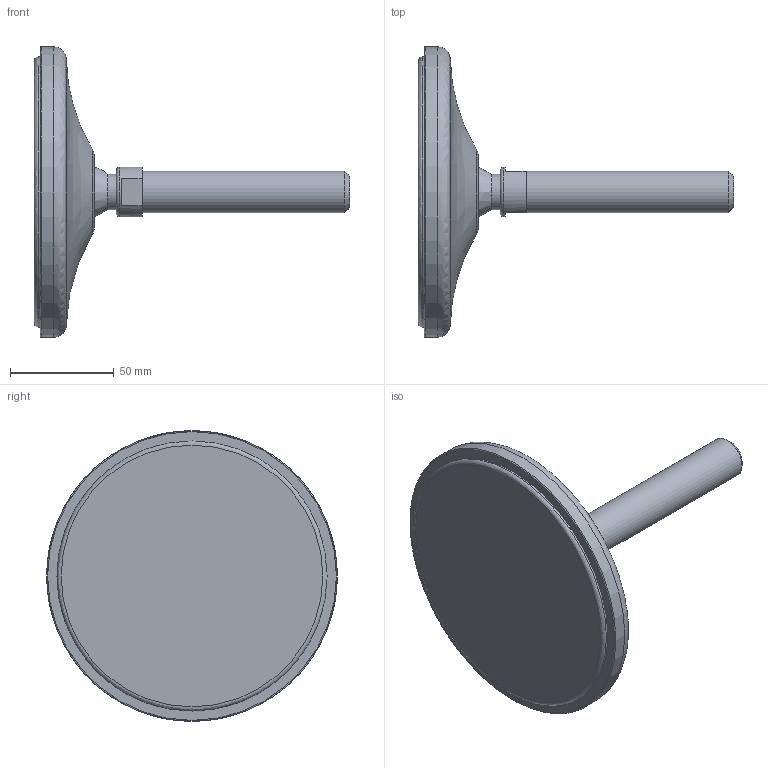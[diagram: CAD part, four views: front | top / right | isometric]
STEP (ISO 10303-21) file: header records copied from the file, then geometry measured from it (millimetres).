
FILE_DESCRIPTION(('STEP AP203'),'2;1');
FILE_NAME('10887.stp','2016-03-21T17:00:59',(''),(''),'2008.1.107','THINKDESIGN','');
FILE_SCHEMA(('CONFIG_CONTROL_DESIGN'));
Length unit declared in the file: millimetre
Bounding box: 152 x 140 x 140 mm (x, y, z)
Volume: 285343 mm3; surface area: 75197.7 mm2
Topology: 4 solids, 4 shells, 31 faces, 76 edges, 55 vertices
Faces by surface type: plane 14, bspline 10, cylinder 7
Full cylindrical faces by diameter (mm): 17 x1, 20 x1, 24 x1, 38 x1, 130 x2, 140 x1
Entity records: 1656 total; most frequent: CARTESIAN_POINT 806, DIRECTION 173, ORIENTED_EDGE 148, AXIS2_PLACEMENT_3D 78, EDGE_CURVE 74, CIRCLE 57, VERTEX_POINT 55, EDGE_LOOP 35
